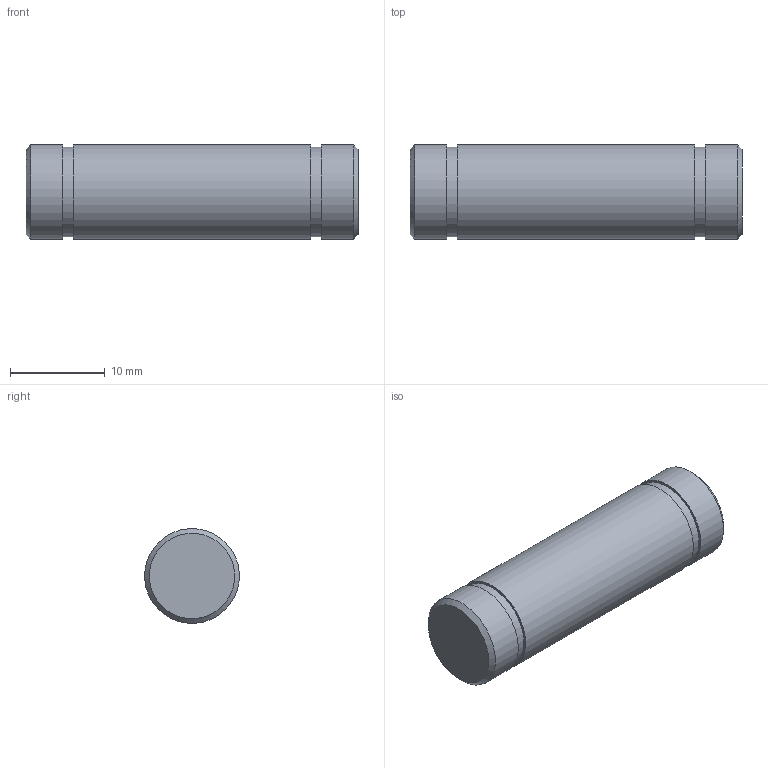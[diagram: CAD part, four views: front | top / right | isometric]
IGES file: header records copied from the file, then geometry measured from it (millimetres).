
Start section: File produced by SOLID-CONCEP (BRep Solid - Entity 186)
Global section: file name: 52.igs; native system: SOLID-CONCEPT V.5.xx; preprocessor: SOLID-CONCEPT-IGES-OUT v2.00; date: 090204.204231; units: millimetre
Bounding box: 35 x 9.98 x 9.98 mm (x, y, z)
Volume: 2725.3 mm3; surface area: 1283.3 mm2
Topology: 1 solids, 1 shells, 13 faces, 19 edges, 12 vertices
Faces by surface type: plane 6, cylinder 5, revolution 1, cone 1
